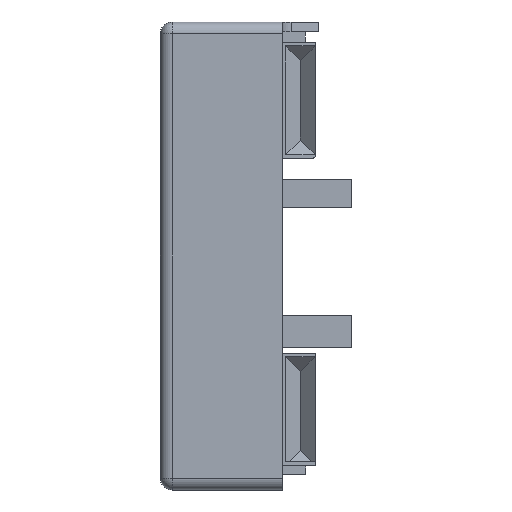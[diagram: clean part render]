
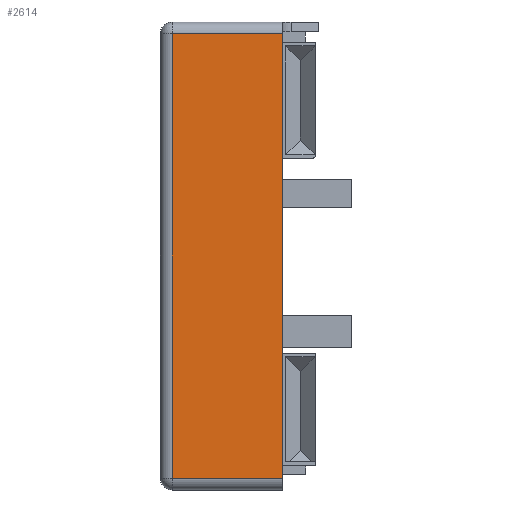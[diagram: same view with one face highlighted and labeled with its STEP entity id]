
A CAD part, left-side view. The second image highlights one B-rep face of the part: STEP entity #2614.
In plain terms, the highlighted planar face has unit normal (-1, 0, 0).
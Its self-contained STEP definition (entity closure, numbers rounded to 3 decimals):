
#117=FACE_OUTER_BOUND('',#263,.T.);
#263=EDGE_LOOP('',(#1997,#1998,#1999,#2000));
#538=LINE('',#3967,#863);
#554=LINE('',#4006,#879);
#568=LINE('',#4039,#893);
#569=LINE('',#4042,#894);
#863=VECTOR('',#3141,10.);
#879=VECTOR('',#3175,10.);
#893=VECTOR('',#3211,10.);
#894=VECTOR('',#3216,10.);
#1184=VERTEX_POINT('',#3964);
#1185=VERTEX_POINT('',#3966);
#1199=VERTEX_POINT('',#4005);
#1207=VERTEX_POINT('',#4038);
#1464=EDGE_CURVE('',#1184,#1185,#538,.T.);
#1484=EDGE_CURVE('',#1185,#1199,#554,.T.);
#1501=EDGE_CURVE('',#1199,#1207,#568,.T.);
#1503=EDGE_CURVE('',#1207,#1184,#569,.T.);
#1997=ORIENTED_EDGE('',*,*,#1503,.F.);
#1998=ORIENTED_EDGE('',*,*,#1501,.F.);
#1999=ORIENTED_EDGE('',*,*,#1484,.F.);
#2000=ORIENTED_EDGE('',*,*,#1464,.F.);
#2497=PLANE('',#2787);
#2614=ADVANCED_FACE('',(#117),#2497,.T.);
#2787=AXIS2_PLACEMENT_3D('',#4041,#3214,#3215);
#3141=DIRECTION('',(0.,0.,-1.));
#3175=DIRECTION('',(0.,1.,0.));
#3211=DIRECTION('',(0.,0.,1.));
#3214=DIRECTION('center_axis',(-1.,0.,0.));
#3215=DIRECTION('ref_axis',(0.,0.,1.));
#3216=DIRECTION('',(0.,-1.,0.));
#3964=CARTESIAN_POINT('',(-114.7,7.284,55.95));
#3966=CARTESIAN_POINT('',(-114.7,7.284,-0.7));
#3967=CARTESIAN_POINT('',(-114.7,7.284,12.747));
#4005=CARTESIAN_POINT('',(-114.7,21.31,-0.7));
#4006=CARTESIAN_POINT('',(-114.7,-6.,-0.7));
#4038=CARTESIAN_POINT('',(-114.7,21.31,55.95));
#4039=CARTESIAN_POINT('',(-114.7,21.31,12.713));
#4041=CARTESIAN_POINT('Origin',(-114.7,-6.,-2.2));
#4042=CARTESIAN_POINT('',(-114.7,4.355,55.95));
